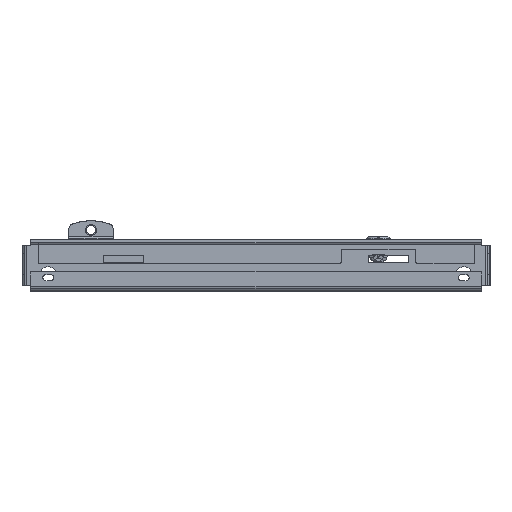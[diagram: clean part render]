
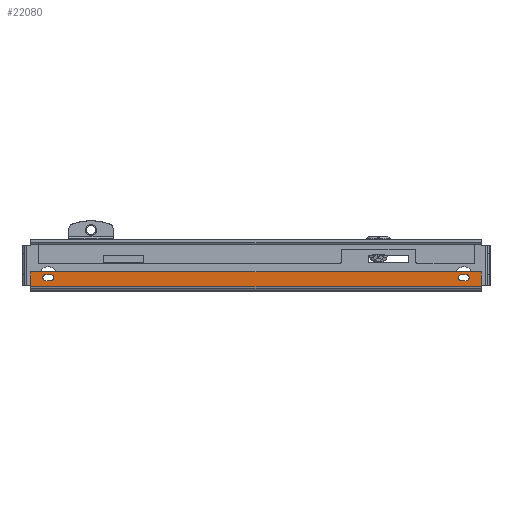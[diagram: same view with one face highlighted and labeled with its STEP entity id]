
A CAD part, front view. The second image highlights one B-rep face of the part: STEP entity #22080.
In plain terms, the highlighted planar face has unit normal (0, -1, 0) as drawn and (0, 0, -1) by its records, which use the part's own axes.
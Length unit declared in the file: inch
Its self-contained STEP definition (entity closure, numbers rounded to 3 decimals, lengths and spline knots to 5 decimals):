
#204 = EDGE_LOOP ( 'NONE', ( #4839, #4669, #4836, #4841, #4939 ) ) ;
#1072 = CARTESIAN_POINT ( 'NONE',  ( 20.59, 1.745, 0. ) ) ;
#1082 = CARTESIAN_POINT ( 'NONE',  ( 1.457, 1.745, 0. ) ) ;
#2399 = CARTESIAN_POINT ( 'NONE',  ( 20.4495, 1.8855, 0. ) ) ;
#2473 = EDGE_LOOP ( 'NONE', ( #4927, #4937, #4766, #4938, #4947 ) ) ;
#2867 = EDGE_LOOP ( 'NONE', ( #4664, #4948, #4668, #4942 ) ) ;
#4664 = ORIENTED_EDGE ( 'NONE', *, *, #11720, .T. ) ;
#4668 = ORIENTED_EDGE ( 'NONE', *, *, #11732, .T. ) ;
#4669 = ORIENTED_EDGE ( 'NONE', *, *, #11724, .T. ) ;
#4730 = CARTESIAN_POINT ( 'NONE',  ( 1.3165, 1.6045, 0. ) ) ;
#4740 = CARTESIAN_POINT ( 'NONE',  ( 21.147, 1.476, 0. ) ) ;
#4747 = CARTESIAN_POINT ( 'NONE',  ( 21.147, 2.16, 0. ) ) ;
#4762 = CARTESIAN_POINT ( 'NONE',  ( 20.2305, 1.8855, 0. ) ) ;
#4766 = ORIENTED_EDGE ( 'NONE', *, *, #11728, .T. ) ;
#4836 = ORIENTED_EDGE ( 'NONE', *, *, #11721, .T. ) ;
#4839 = ORIENTED_EDGE ( 'NONE', *, *, #11725, .T. ) ;
#4841 = ORIENTED_EDGE ( 'NONE', *, *, #12391, .T. ) ;
#4927 = ORIENTED_EDGE ( 'NONE', *, *, #11726, .T. ) ;
#4937 = ORIENTED_EDGE ( 'NONE', *, *, #11727, .T. ) ;
#4938 = ORIENTED_EDGE ( 'NONE', *, *, #12397, .T. ) ;
#4939 = ORIENTED_EDGE ( 'NONE', *, *, #11723, .T. ) ;
#4942 = ORIENTED_EDGE ( 'NONE', *, *, #11733, .F. ) ;
#4947 = ORIENTED_EDGE ( 'NONE', *, *, #11729, .T. ) ;
#4948 = ORIENTED_EDGE ( 'NONE', *, *, #11719, .T. ) ;
#4976 = VECTOR ( 'NONE', #13750, 39.37008 ) ;
#4979 = LINE ( 'NONE', #13724, #4991 ) ;
#4989 = LINE ( 'NONE', #13731, #4990 ) ;
#4990 = VECTOR ( 'NONE', #13732, 39.37008 ) ;
#4991 = VECTOR ( 'NONE', #13734, 39.37008 ) ;
#4992 = LINE ( 'NONE', #13753, #4999 ) ;
#4994 = CIRCLE ( 'NONE', #8739, 0.1405 ) ;
#4995 = LINE ( 'NONE', #13740, #4996 ) ;
#4996 = VECTOR ( 'NONE', #13741, 39.37008 ) ;
#4997 = LINE ( 'NONE', #13742, #4998 ) ;
#4998 = VECTOR ( 'NONE', #13743, 39.37008 ) ;
#4999 = VECTOR ( 'NONE', #13754, 39.37008 ) ;
#5000 = VECTOR ( 'NONE', #13992, 39.37008 ) ;
#5001 = CIRCLE ( 'NONE', #8744, 0.1405 ) ;
#5002 = LINE ( 'NONE', #13744, #4976 ) ;
#5003 = CIRCLE ( 'NONE', #8737, 0.1405 ) ;
#5004 = LINE ( 'NONE', #13991, #5000 ) ;
#5005 = CIRCLE ( 'NONE', #8748, 0.1405 ) ;
#5011 = LINE ( 'NONE', #13993, #5012 ) ;
#5012 = VECTOR ( 'NONE', #13994, 39.37008 ) ;
#5554 = CARTESIAN_POINT ( 'NONE',  ( 0.4, 2.16, 0. ) ) ;
#5560 = CARTESIAN_POINT ( 'NONE',  ( 20.2305, 1.6045, 0. ) ) ;
#5582 = CARTESIAN_POINT ( 'NONE',  ( 0.4, 1.476, 0. ) ) ;
#5589 = CARTESIAN_POINT ( 'NONE',  ( 1.0975, 1.8855, 0. ) ) ;
#5597 = CARTESIAN_POINT ( 'NONE',  ( 1.0975, 1.6045, 0. ) ) ;
#5634 = CIRCLE ( 'NONE', #12103, 0.1405 ) ;
#5657 = CIRCLE ( 'NONE', #12110, 0.1405 ) ;
#7095 = VERTEX_POINT ( 'NONE', #2399 ) ;
#7111 = VERTEX_POINT ( 'NONE', #1072 ) ;
#7126 = VERTEX_POINT ( 'NONE', #1082 ) ;
#8737 = AXIS2_PLACEMENT_3D ( 'NONE', #13735, #13747, #13748 ) ;
#8739 = AXIS2_PLACEMENT_3D ( 'NONE', #13733, #13736, #13737 ) ;
#8744 = AXIS2_PLACEMENT_3D ( 'NONE', #13738, #13745, #13746 ) ;
#8748 = AXIS2_PLACEMENT_3D ( 'NONE', #13749, #13751, #13752 ) ;
#10046 = CARTESIAN_POINT ( 'NONE',  ( 21.547, 2.368, 0. ) ) ;
#10051 = PLANE ( 'NONE',  #16868 ) ;
#10052 = DIRECTION ( 'NONE',  ( 0., 0., -1. ) ) ;
#10053 = DIRECTION ( 'NONE',  ( 0., 1., 0. ) ) ;
#11319 = FACE_BOUND ( 'NONE', #2473, .T. ) ;
#11323 = FACE_BOUND ( 'NONE', #204, .T. ) ;
#11326 = FACE_OUTER_BOUND ( 'NONE', #2867, .T. ) ;
#11719 = EDGE_CURVE ( 'NONE', #12971, #12838, #4989, .T. ) ;
#11720 = EDGE_CURVE ( 'NONE', #12978, #12971, #4979, .T. ) ;
#11721 = EDGE_CURVE ( 'NONE', #12636, #7111, #4994, .T. ) ;
#11723 = EDGE_CURVE ( 'NONE', #7095, #12993, #4995, .T. ) ;
#11724 = EDGE_CURVE ( 'NONE', #12826, #12636, #4997, .T. ) ;
#11725 = EDGE_CURVE ( 'NONE', #12993, #12826, #5001, .T. ) ;
#11726 = EDGE_CURVE ( 'NONE', #12842, #12847, #5003, .T. ) ;
#11727 = EDGE_CURVE ( 'NONE', #12847, #12961, #5002, .T. ) ;
#11728 = EDGE_CURVE ( 'NONE', #12961, #7126, #5005, .T. ) ;
#11729 = EDGE_CURVE ( 'NONE', #12656, #12842, #4992, .T. ) ;
#11732 = EDGE_CURVE ( 'NONE', #12838, #12822, #5004, .T. ) ;
#11733 = EDGE_CURVE ( 'NONE', #12978, #12822, #5011, .T. ) ;
#12103 = AXIS2_PLACEMENT_3D ( 'NONE', #19142, #19151, #19152 ) ;
#12110 = AXIS2_PLACEMENT_3D ( 'NONE', #19164, #19167, #19168 ) ;
#12391 = EDGE_CURVE ( 'NONE', #7111, #7095, #5634, .T. ) ;
#12397 = EDGE_CURVE ( 'NONE', #7126, #12656, #5657, .T. ) ;
#12636 = VERTEX_POINT ( 'NONE', #18560 ) ;
#12656 = VERTEX_POINT ( 'NONE', #18579 ) ;
#12822 = VERTEX_POINT ( 'NONE', #5554 ) ;
#12826 = VERTEX_POINT ( 'NONE', #5560 ) ;
#12838 = VERTEX_POINT ( 'NONE', #5582 ) ;
#12842 = VERTEX_POINT ( 'NONE', #5589 ) ;
#12847 = VERTEX_POINT ( 'NONE', #5597 ) ;
#12961 = VERTEX_POINT ( 'NONE', #4730 ) ;
#12971 = VERTEX_POINT ( 'NONE', #4740 ) ;
#12978 = VERTEX_POINT ( 'NONE', #4747 ) ;
#12993 = VERTEX_POINT ( 'NONE', #4762 ) ;
#13724 = CARTESIAN_POINT ( 'NONE',  ( 21.147, 2.368, 0. ) ) ;
#13731 = CARTESIAN_POINT ( 'NONE',  ( 21.547, 1.476, 0. ) ) ;
#13732 = DIRECTION ( 'NONE',  ( -1., 0., 0. ) ) ;
#13733 = CARTESIAN_POINT ( 'NONE',  ( 20.4495, 1.745, 0. ) ) ;
#13734 = DIRECTION ( 'NONE',  ( 0., -1., 0. ) ) ;
#13735 = CARTESIAN_POINT ( 'NONE',  ( 1.0975, 1.745, 0. ) ) ;
#13736 = DIRECTION ( 'NONE',  ( 0., 0., 1. ) ) ;
#13737 = DIRECTION ( 'NONE',  ( 1., 0., 0. ) ) ;
#13738 = CARTESIAN_POINT ( 'NONE',  ( 20.2305, 1.745, 0. ) ) ;
#13740 = CARTESIAN_POINT ( 'NONE',  ( 20.2305, 1.8855, 0. ) ) ;
#13741 = DIRECTION ( 'NONE',  ( -1., 0., 0. ) ) ;
#13742 = CARTESIAN_POINT ( 'NONE',  ( 20.2305, 1.6045, 0. ) ) ;
#13743 = DIRECTION ( 'NONE',  ( 1., 0., 0. ) ) ;
#13744 = CARTESIAN_POINT ( 'NONE',  ( 1.0975, 1.6045, 0. ) ) ;
#13745 = DIRECTION ( 'NONE',  ( 0., 0., 1. ) ) ;
#13746 = DIRECTION ( 'NONE',  ( 1., 0., 0. ) ) ;
#13747 = DIRECTION ( 'NONE',  ( 0., 0., 1. ) ) ;
#13748 = DIRECTION ( 'NONE',  ( 1., 0., 0. ) ) ;
#13749 = CARTESIAN_POINT ( 'NONE',  ( 1.3165, 1.745, 0. ) ) ;
#13750 = DIRECTION ( 'NONE',  ( 1., 0., 0. ) ) ;
#13751 = DIRECTION ( 'NONE',  ( 0., 0., 1. ) ) ;
#13752 = DIRECTION ( 'NONE',  ( 1., 0., 0. ) ) ;
#13753 = CARTESIAN_POINT ( 'NONE',  ( 1.0975, 1.8855, 0. ) ) ;
#13754 = DIRECTION ( 'NONE',  ( -1., 0., 0. ) ) ;
#13991 = CARTESIAN_POINT ( 'NONE',  ( 0.4, 2.368, 0. ) ) ;
#13992 = DIRECTION ( 'NONE',  ( 0., 1., 0. ) ) ;
#13993 = CARTESIAN_POINT ( 'NONE',  ( 21.547, 2.16, 0. ) ) ;
#13994 = DIRECTION ( 'NONE',  ( -1., 0., 0. ) ) ;
#16868 = AXIS2_PLACEMENT_3D ( 'NONE', #10046, #10052, #10053 ) ;
#18560 = CARTESIAN_POINT ( 'NONE',  ( 20.4495, 1.6045, 0. ) ) ;
#18579 = CARTESIAN_POINT ( 'NONE',  ( 1.3165, 1.8855, 0. ) ) ;
#19142 = CARTESIAN_POINT ( 'NONE',  ( 20.4495, 1.745, 0. ) ) ;
#19151 = DIRECTION ( 'NONE',  ( 0., 0., 1. ) ) ;
#19152 = DIRECTION ( 'NONE',  ( 1., 0., 0. ) ) ;
#19164 = CARTESIAN_POINT ( 'NONE',  ( 1.3165, 1.745, 0. ) ) ;
#19167 = DIRECTION ( 'NONE',  ( 0., 0., 1. ) ) ;
#19168 = DIRECTION ( 'NONE',  ( 1., 0., 0. ) ) ;
#22080 = ADVANCED_FACE ( 'NONE', ( #11323, #11319, #11326 ), #10051, .T. ) ;
